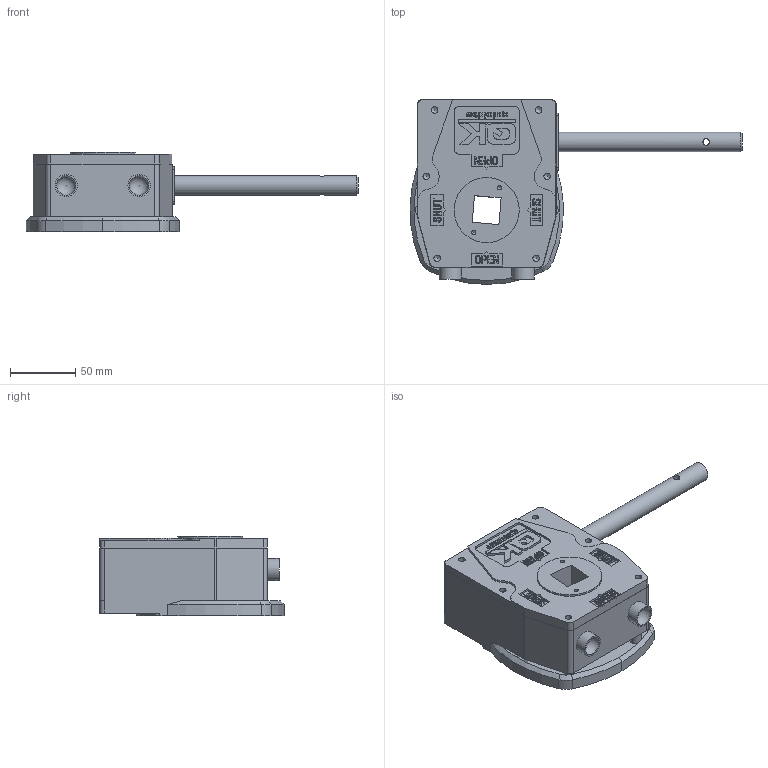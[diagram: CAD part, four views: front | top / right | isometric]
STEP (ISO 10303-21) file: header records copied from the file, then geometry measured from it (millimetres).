
FILE_DESCRIPTION (( 'STEP AP203' ), '1' );
FILE_NAME ('TVT15008-GBL-QKT-CS.STEP', '2018-12-13T11:45:03', ( '' ), ( '' ), 'SwSTEP 2.0', 'SolidWorks 2014', '' );
FILE_SCHEMA (( 'CONFIG_CONTROL_DESIGN' ));
Length unit declared in the file: millimetre
Products named in the file (1): TVT15008-GBL-QKT-CS
Bounding box: 255.19 x 142 x 61 mm (x, y, z)
Volume: 775750.4 mm3; surface area: 79712.6 mm2
Topology: 1 solids, 1 shells, 525 faces, 1393 edges, 918 vertices
Faces by surface type: plane 367, cylinder 119, cone 23, bspline 14, torus 2
Full cylindrical faces by diameter (mm): 3.3 x2, 5 x7, 5.5 x2, 6.8 x4, 8 x2, 8.5 x4, 15 x1, 16 x1, 17.059 x2, 50.099 x1, 50.1 x1
Entity records: 16541 total; most frequent: CARTESIAN_POINT 3625, ORIENTED_EDGE 2648, DIRECTION 2554, EDGE_CURVE 1324, VECTOR 1044, LINE 1044, VERTEX_POINT 898, AXIS2_PLACEMENT_3D 755
